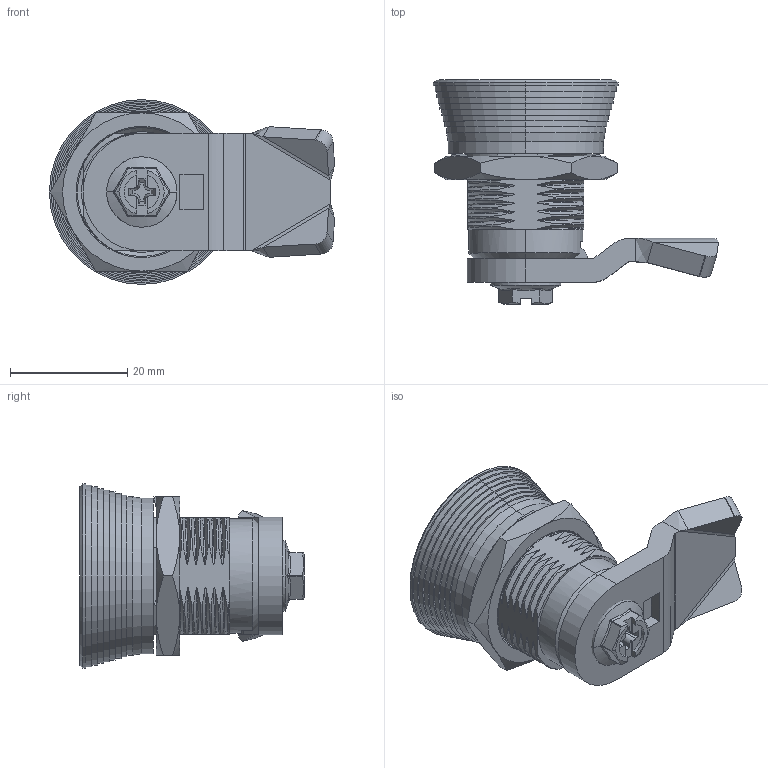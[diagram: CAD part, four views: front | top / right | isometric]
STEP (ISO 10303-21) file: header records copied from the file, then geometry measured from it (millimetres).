
FILE_DESCRIPTION (( 'STEP AP214' ), '1' );
FILE_NAME ('CUYUE.MS702.STEP', '2026-06-22T08:19:02', ( '' ), ( '' ), 'SwSTEP 2.0', 'SolidWorks 2020', '' );
FILE_SCHEMA (( 'AUTOMOTIVE_DESIGN' ));
Length unit declared in the file: millimetre
Products named in the file (9): MANIFOLD_SOLID_BREP_30184; CUYUE.MS702; MANIFOLD_SOLID_BREP_29999; 3SJ-MS705-K01-0001_ASM_12_ASM; DS1B3204_14_ASM; 8SJ-MS704-2-0040趼坶郋; SW6X10_5; 8SJ-MS705-K01-0010_16; M22X1_5_4
Assembly tree (8 placements, depth 4):
  CUYUE.MS702
    3SJ-MS705-K01-0001_ASM_12_ASM
      8SJ-MS705-K01-0010_16
      DS1B3204_14_ASM
        MANIFOLD_SOLID_BREP_29999
        MANIFOLD_SOLID_BREP_30184
      SW6X10_5
      M22X1_5_4
    8SJ-MS704-2-0040趼坶郋
Bounding box: 48.62 x 38.2 x 31.5 mm (x, y, z)
Volume: 13478.8 mm3; surface area: 11066.9 mm2
Topology: 6 solids, 10 shells, 708 faces, 1793 edges, 1064 vertices
Faces by surface type: bspline 337, cylinder 189, plane 143, cone 36, torus 3
Entity records: 43980 total; most frequent: CARTESIAN_POINT 22691, ORIENTED_EDGE 3482, DIRECTION 1867, EDGE_CURVE 1745, VERTEX_POINT 1064, B_SPLINE_CURVE_WITH_KNOTS 897, EDGE_LOOP 727, AXIS2_PLACEMENT_3D 722
